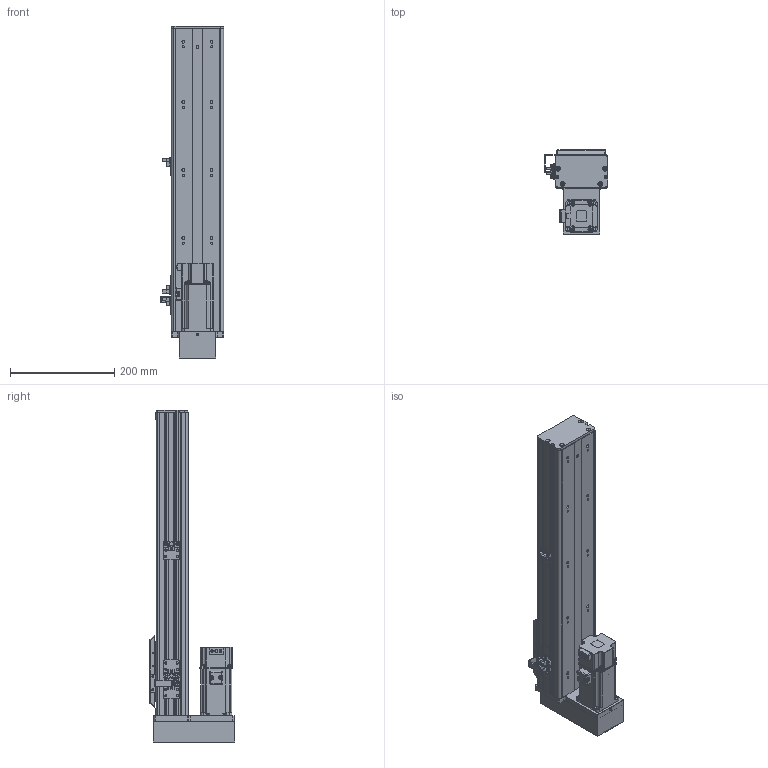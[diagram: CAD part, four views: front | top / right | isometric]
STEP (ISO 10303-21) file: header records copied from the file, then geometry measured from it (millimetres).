
FILE_DESCRIPTION (( 'STEP AP203' ), '1' );
FILE_NAME ('BOSW100-400-1610-1P-DM-M400W-O-S3（方程式2016）.step', '2020-10-10T06:42:28', ( '' ), ( '' ), 'SwSTEP 2.0', 'SolidWorks 2016', '' );
FILE_SCHEMA (( 'CONFIG_CONTROL_DESIGN' ));
Length unit declared in the file: millimetre
Products named in the file (14): BOSW-100-綴裔啣; BOSW&TW-100-俋离覜茼え; BOS100-DM鎮湛欶; 新结构AIMSW-100-1P-宽&高轨共用-滑动座上组件; 放大器内置U型微型光电传感器PM-L65; BOSW-100-1P-DM-宽轨-侧板-400客户图纸; BOSW-100-1P-DM-宽轨-钢带-400客户图纸; BOSW&TW-100-1P-賑雄釱欶; BOSW&TW-100-詩湍揤沭(陔賦凳); 俋境嫖覜嘐隅啣; BOSW-100-1P-DM-400諦誧芞; BOSW100-400-1610-1P-DM-M400W-O-S3（方程式2016）; S400W(SMA-L040); BOS-100-DM鎮湛假蚾啣
Assembly tree (19 placements, depth 2):
  BOSW100-400-1610-1P-DM-M400W-O-S3（方程式2016）
    BOSW-100-1P-DM-400諦誧芞
    BOSW-100-綴裔啣
    新结构AIMSW-100-1P-宽&高轨共用-滑动座上组件
    S400W(SMA-L040)
    BOSW&TW-100-詩湍揤沭(陔賦凳)  x2
    BOSW&TW-100-1P-賑雄釱欶
    BOSW&TW-100-俋离覜茼え
    俋境嫖覜嘐隅啣  x3
    放大器内置U型微型光电传感器PM-L65  x3
    BOSW-100-1P-DM-宽轨-侧板-400客户图纸  x2
    BOSW-100-1P-DM-宽轨-钢带-400客户图纸
    BOS100-DM鎮湛欶
    BOS-100-DM鎮湛假蚾啣
Bounding box: 120.9 x 164 x 636 mm (x, y, z)
Volume: 1528191.6 mm3; surface area: 734080.2 mm2
Topology: 19 solids, 19 shells, 2526 faces, 6656 edges, 4253 vertices
Faces by surface type: plane 1263, cylinder 787, bspline 271, cone 157, torus 36, sphere 12
Entity records: 69215 total; most frequent: CARTESIAN_POINT 20758, ORIENTED_EDGE 9868, DIRECTION 9538, EDGE_CURVE 4934, AXIS2_PLACEMENT_3D 3362, VERTEX_POINT 3155, LINE 2814, VECTOR 2814
